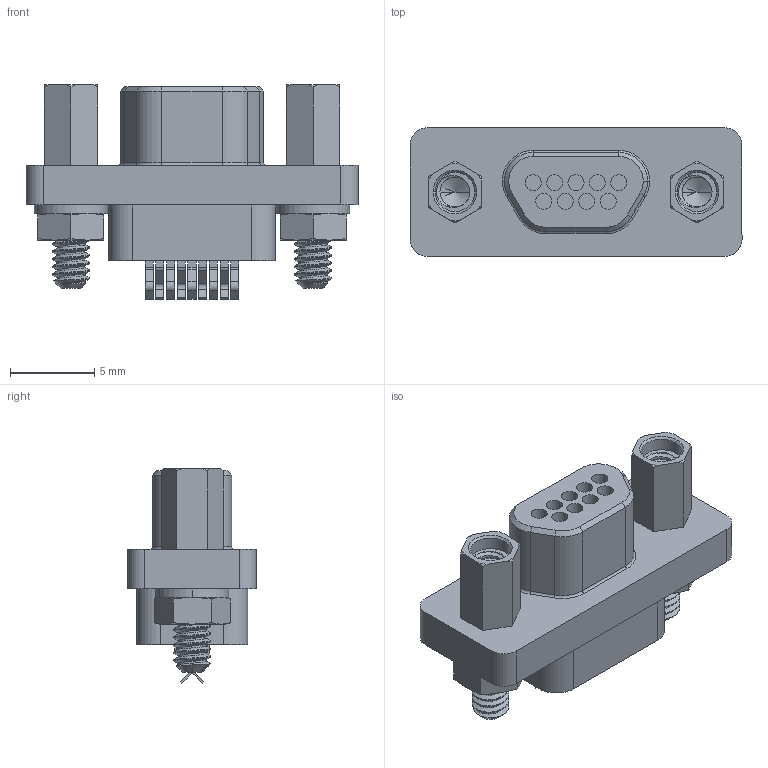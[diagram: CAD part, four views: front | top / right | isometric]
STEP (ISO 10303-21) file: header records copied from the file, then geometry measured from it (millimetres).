
FILE_DESCRIPTION (( 'STEP AP214' ), '1' );
FILE_NAME ('A98062-009 REV A.STEP', '2015-03-27T16:13:35', ( '' ), ( '' ), 'SwSTEP 2.0', 'SolidWorks 2015', '' );
FILE_SCHEMA (( 'AUTOMOTIVE_DESIGN' ));
Length unit declared in the file: inch
Products named in the file (1): A98062-009 REV A
Bounding box: 19.68 x 7.63 x 12.71 mm (x, y, z)
Volume: 800.9 mm3; surface area: 1147.6 mm2
Topology: 1 solids, 1 shells, 566 faces, 1452 edges, 938 vertices
Faces by surface type: plane 263, cylinder 167, cone 71, bspline 60, torus 5
Entity records: 26445 total; most frequent: CARTESIAN_POINT 12913, ORIENTED_EDGE 2896, DIRECTION 2461, EDGE_CURVE 1448, VERTEX_POINT 938, VECTOR 849, LINE 849, AXIS2_PLACEMENT_3D 806
